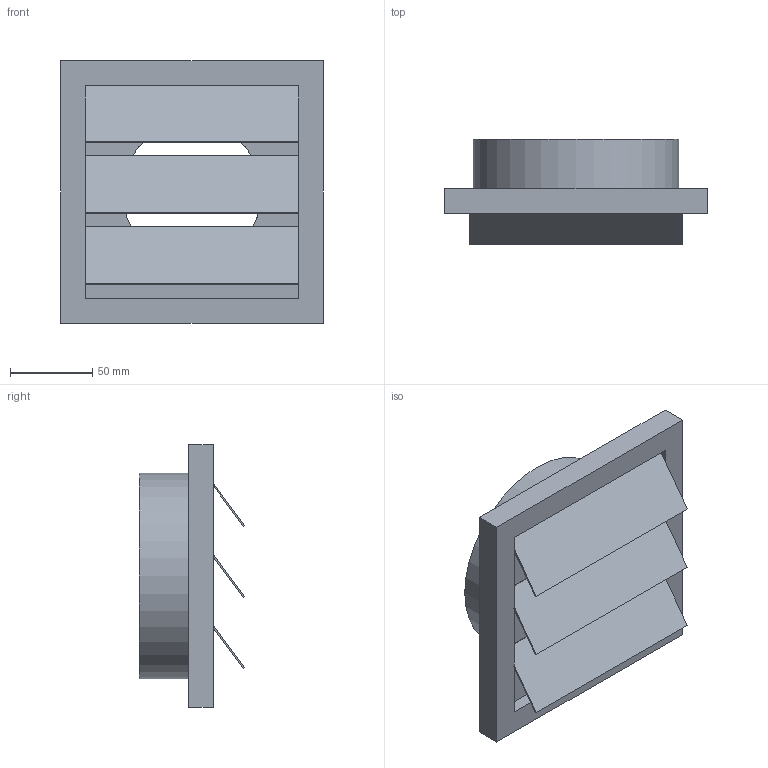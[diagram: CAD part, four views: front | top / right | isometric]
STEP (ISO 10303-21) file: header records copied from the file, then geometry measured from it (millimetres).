
FILE_DESCRIPTION(/* description */ (''),/* implementation_level */ '2;1');
FILE_NAME(/* name */ 'Z:\Output\VK 125-00857-001.stp',/* time_stamp */ '2017-05-05T18:42:40+02:00',/* author */ ('pareshmistry'),/* organization */ (''),/* preprocessor_version */ 'ST-DEVELOPER v16.5',/* originating_system */ 'Autodesk Inventor 2017',/* authorisation */ '');
FILE_SCHEMA (('AUTOMOTIVE_DESIGN { 1 0 10303 214 3 1 1 }'));
Length unit declared in the file: millimetre
Products named in the file (1): VK-3
Bounding box: 160 x 64.08 x 160 mm (x, y, z)
Volume: 429463.5 mm3; surface area: 109455.4 mm2
Topology: 1 solids, 1 shells, 40 faces, 99 edges, 58 vertices
Faces by surface type: plane 38, cylinder 2
Full cylindrical faces by diameter (mm): 85 x1, 125 x1
Entity records: 1169 total; most frequent: ORIENTED_EDGE 200, CARTESIAN_POINT 194, DIRECTION 185, EDGE_CURVE 96, LINE 89, VECTOR 89, VERTEX_POINT 57, AXIS2_PLACEMENT_3D 48
